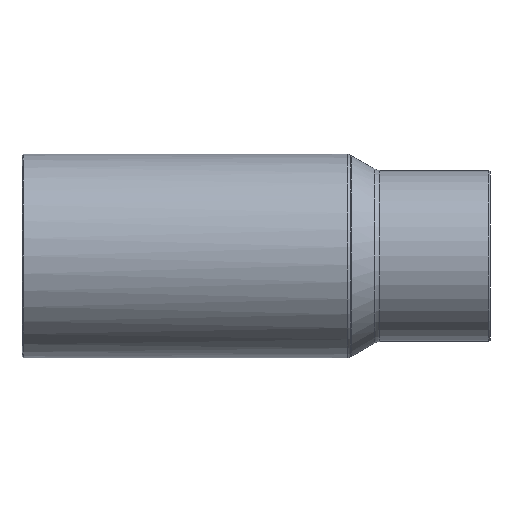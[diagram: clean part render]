
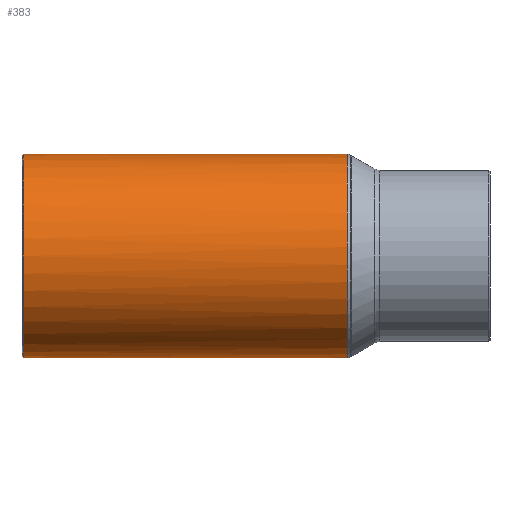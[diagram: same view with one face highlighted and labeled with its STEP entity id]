
A CAD part, front view. The second image highlights one B-rep face of the part: STEP entity #383.
In plain terms, the highlighted cylindrical face has radius 19.85 mm (diameter 39.7 mm), a full revolution.
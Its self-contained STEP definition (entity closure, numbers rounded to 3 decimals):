
#121=CARTESIAN_POINT('',(0.,0.0,-19.85));
#122=VERTEX_POINT('',#121);
#123=CARTESIAN_POINT('',(0.,0.0,19.85));
#124=VERTEX_POINT('',#123);
#309=CARTESIAN_POINT('',(-43.3,19.85,0.));
#310=VERTEX_POINT('',#309);
#311=CARTESIAN_POINT('',(-43.3,0.0,0.0));
#312=DIRECTION('',(-1.0,0.0,0.0));
#313=DIRECTION('',(0.0,-1.0,0.0));
#314=AXIS2_PLACEMENT_3D('',#311,#312,#313);
#315=CIRCLE('',#314,19.85);
#316=EDGE_CURVE('',#310,#310,#315,.T.);
#341=CARTESIAN_POINT('',(2.05,0.0,0.0));
#342=DIRECTION('',(1.0,0.0,0.0));
#343=DIRECTION('',(0.0,1.0,0.0));
#344=AXIS2_PLACEMENT_3D('',#341,#342,#343);
#345=CYLINDRICAL_SURFACE('',#344,19.85);
#346=CARTESIAN_POINT('',(19.86,16.19,11.485));
#347=VERTEX_POINT('',#346);
#348=CARTESIAN_POINT('',(19.86,16.19,-11.485));
#349=VERTEX_POINT('',#348);
#350=CARTESIAN_POINT('',(19.86,0.0,0.0));
#351=DIRECTION('',(1.0,0.0,0.0));
#352=DIRECTION('',(0.0,-1.0,0.0));
#353=AXIS2_PLACEMENT_3D('',#350,#351,#352);
#354=CIRCLE('',#353,19.85);
#355=EDGE_CURVE('',#347,#349,#354,.T.);
#356=ORIENTED_EDGE('',*,*,#355,.F.);
#357=CARTESIAN_POINT('',(0.0,0.0,0.0));
#358=DIRECTION('',(-0.632,0.775,0.0));
#359=DIRECTION('',(0.775,0.632,0.0));
#360=AXIS2_PLACEMENT_3D('',#357,#358,#359);
#361=ELLIPSE('',#360,31.416,19.85);
#362=EDGE_CURVE('',#124,#347,#361,.T.);
#363=ORIENTED_EDGE('',*,*,#362,.F.);
#364=CARTESIAN_POINT('',(0.0,0.0,0.0));
#365=DIRECTION('',(0.632,0.775,0.0));
#366=DIRECTION('',(-0.775,0.632,0.0));
#367=AXIS2_PLACEMENT_3D('',#364,#365,#366);
#368=ELLIPSE('',#367,31.416,19.85);
#369=EDGE_CURVE('',#122,#124,#368,.T.);
#370=ORIENTED_EDGE('',*,*,#369,.F.);
#371=CARTESIAN_POINT('',(0.0,0.0,0.0));
#372=DIRECTION('',(-0.632,0.775,0.0));
#373=DIRECTION('',(0.775,0.632,0.0));
#374=AXIS2_PLACEMENT_3D('',#371,#372,#373);
#375=ELLIPSE('',#374,31.416,19.85);
#376=EDGE_CURVE('',#349,#122,#375,.T.);
#377=ORIENTED_EDGE('',*,*,#376,.F.);
#378=EDGE_LOOP('',(#356,#363,#370,#377));
#379=FACE_OUTER_BOUND('',#378,.T.);
#380=ORIENTED_EDGE('',*,*,#316,.F.);
#381=EDGE_LOOP('',(#380));
#382=FACE_BOUND('',#381,.T.);
#383=ADVANCED_FACE('',(#379,#382),#345,.T.);
